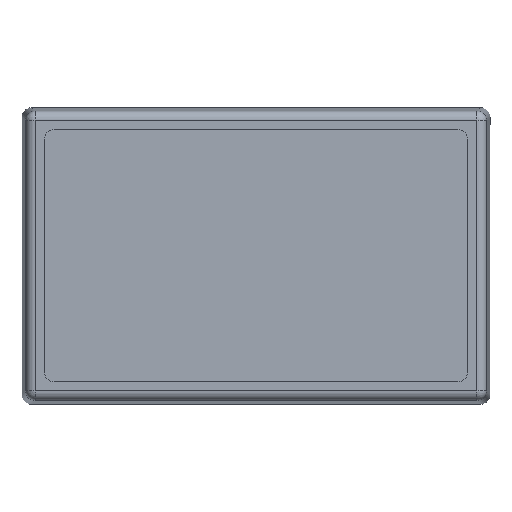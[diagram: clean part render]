
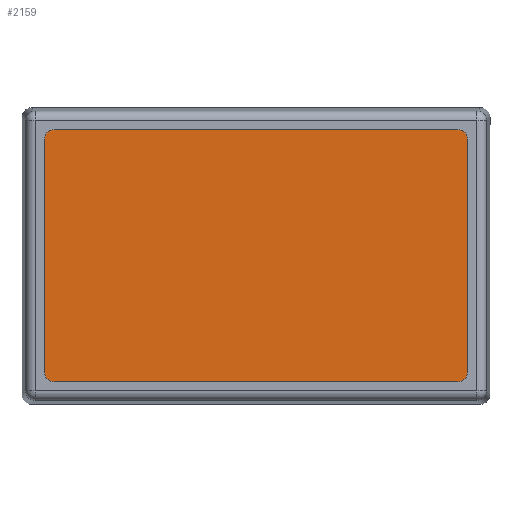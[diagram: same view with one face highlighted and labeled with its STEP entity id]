
A CAD part, top view. The second image highlights one B-rep face of the part: STEP entity #2159.
In plain terms, the highlighted planar face has unit normal (0, 0, 1).
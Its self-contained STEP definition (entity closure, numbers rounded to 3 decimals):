
#53=CIRCLE($,#2253,1.5);
#55=CIRCLE($,#2257,1.5);
#57=CIRCLE($,#2261,1.5);
#59=CIRCLE($,#2265,1.5);
#229=FACE_OUTER_BOUND($,#349,.T.);
#349=EDGE_LOOP($,(#1755,#1756,#1757,#1758,#1759,#1760,#1761,#1762));
#517=LINE($,#3235,#759);
#521=LINE($,#3247,#763);
#524=LINE($,#3258,#766);
#527=LINE($,#3267,#769);
#759=VECTOR($,#2572,37.);
#763=VECTOR($,#2584,64.);
#766=VECTOR($,#2595,64.);
#769=VECTOR($,#2606,37.);
#987=VERTEX_POINT($,#3222);
#988=VERTEX_POINT($,#3223);
#992=VERTEX_POINT($,#3233);
#993=VERTEX_POINT($,#3237);
#996=VERTEX_POINT($,#3245);
#997=VERTEX_POINT($,#3249);
#998=VERTEX_POINT($,#3250);
#1001=VERTEX_POINT($,#3261);
#1211=EDGE_CURVE($,#987,#988,#53,.T.);
#1217=EDGE_CURVE($,#988,#992,#517,.T.);
#1218=EDGE_CURVE($,#992,#993,#55,.T.);
#1223=EDGE_CURVE($,#993,#996,#521,.T.);
#1224=EDGE_CURVE($,#997,#998,#57,.T.);
#1228=EDGE_CURVE($,#998,#987,#524,.T.);
#1230=EDGE_CURVE($,#996,#1001,#59,.T.);
#1233=EDGE_CURVE($,#1001,#997,#527,.T.);
#1755=ORIENTED_EDGE($,*,*,#1211,.T.);
#1756=ORIENTED_EDGE($,*,*,#1217,.T.);
#1757=ORIENTED_EDGE($,*,*,#1218,.T.);
#1758=ORIENTED_EDGE($,*,*,#1223,.T.);
#1759=ORIENTED_EDGE($,*,*,#1230,.T.);
#1760=ORIENTED_EDGE($,*,*,#1233,.T.);
#1761=ORIENTED_EDGE($,*,*,#1224,.T.);
#1762=ORIENTED_EDGE($,*,*,#1228,.T.);
#2056=PLANE($,#2317);
#2159=ADVANCED_FACE($,(#229),#2056,.T.);
#2253=AXIS2_PLACEMENT_3D($,#3224,#2562,#2563);
#2257=AXIS2_PLACEMENT_3D($,#3238,#2575,#2576);
#2261=AXIS2_PLACEMENT_3D($,#3251,#2587,#2588);
#2265=AXIS2_PLACEMENT_3D($,#3262,#2599,#2600);
#2317=AXIS2_PLACEMENT_3D($,#3390,#2753,#2754);
#2562=DIRECTION('center_axis',(0.,0.,
1.));
#2563=DIRECTION('ref_axis',(-0.707,0.707,0.));
#2572=DIRECTION($,(0.,-1.,0.));
#2575=DIRECTION('center_axis',(0.,0.,
1.));
#2576=DIRECTION('ref_axis',(-0.707,-0.707,0.));
#2584=DIRECTION($,(1.,0.,0.));
#2587=DIRECTION('center_axis',(0.,0.,
1.));
#2588=DIRECTION('ref_axis',(0.707,0.707,0.));
#2595=DIRECTION($,(-1.,0.,0.));
#2599=DIRECTION('center_axis',(0.,0.,
1.));
#2600=DIRECTION('ref_axis',(0.707,-0.707,0.));
#2606=DIRECTION($,(0.,1.,0.));
#2753=DIRECTION('center_axis',(0.,0.,
1.));
#2754=DIRECTION('ref_axis',(1.,0.,0.));
#3222=CARTESIAN_POINT('',(5.1,43.5,22.9));
#3223=CARTESIAN_POINT('',(3.6,42.,22.9));
#3224=CARTESIAN_POINT('Origin',(5.1,42.,22.9));
#3233=CARTESIAN_POINT('',(3.6,5.,22.9));
#3235=CARTESIAN_POINT($,(3.6,3.5,22.9));
#3237=CARTESIAN_POINT('',(5.1,3.5,22.9));
#3238=CARTESIAN_POINT('Origin',(5.1,5.,22.9));
#3245=CARTESIAN_POINT('',(69.1,3.5,22.9));
#3247=CARTESIAN_POINT($,(70.6,3.5,22.9));
#3249=CARTESIAN_POINT('',(70.6,42.,22.9));
#3250=CARTESIAN_POINT('',(69.1,43.5,22.9));
#3251=CARTESIAN_POINT('Origin',(69.1,42.,22.9));
#3258=CARTESIAN_POINT($,(3.6,43.5,22.9));
#3261=CARTESIAN_POINT('',(70.6,5.,22.9));
#3262=CARTESIAN_POINT('Origin',(69.1,5.,22.9));
#3267=CARTESIAN_POINT($,(70.6,43.5,22.9));
#3390=CARTESIAN_POINT('Origin',(37.1,23.5,22.9));
